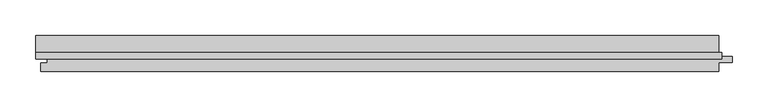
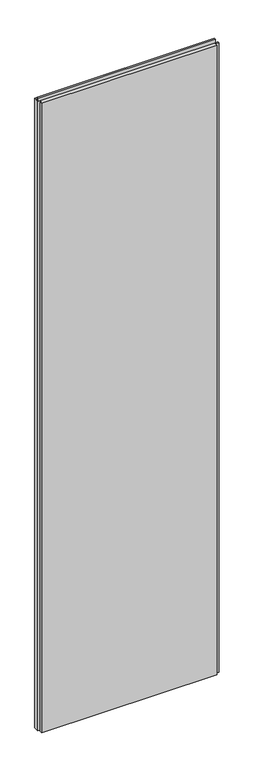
"""IFC4 building model written with IfcOpenShell, lengths in millimetres: plate geometry, Trimo_Qbiss Screen_Normal Panel-VERTICAL : HR - FB."""

from ifc_helpers import new_model, si_unit, frame, origin, place, context, project, spatial, polyline, outline, extrude, source, transform, mapped, element, save


def plate_875d32aa(model_context):
    return source(origin(), model_context, "Body", "SweptSolid", [
        extrude(outline(polyline([(-477.0, 93.9), (-477.0, 102.6), (477.0, 102.6), (477.0, 93.9), (-477.0, 93.9)])), frame((0.0, 0.0, 3590.5), z_axis=(0.0, 0.0, 1.0), x_axis=(1.0, 0.0, 0.0)), (0.0, 0.0, 1.0), 19.0),
        extrude(outline(polyline([(473.0, 97.0), (491.5, 97.0), (491.5, 89.0), (473.0, 89.0), (473.0, 76.0), (-470.0, 76.0), (-470.0, 88.0), (-461.5, 88.0), (-461.5, 98.0), (-477.0, 98.0), (-477.0, 126.0), (473.0, 126.0), (473.0, 97.0)])), frame((0.0, 0.0, 12.5), z_axis=(0.0, 0.0, 1.0), x_axis=(1.0, 0.0, 0.0)), (0.0, 0.0, 1.0), 3575.0),
    ])


if __name__ == "__main__":
    model = new_model("IFC4")
    model_context = context("Model", 3, world=origin())
    ifc_project = project(units=[si_unit("LENGTHUNIT", "METRE", prefix="MILLI")], contexts=[model_context])
    site = spatial("IfcSite", under=ifc_project)
    building = spatial("IfcBuilding", under=site)
    placement = place(None, origin())
    plate_shape = plate_875d32aa(model_context)
    element("IfcPlate", 1, ObjectType="Trimo_Qbiss Screen_Normal Panel-VERTICAL : HR - FB", at=placement, inside=building, context=model_context, shape_type="MappedRepresentation", body=[
        mapped(plate_shape, transform((0.0, 0.0, 0.0), x_axis=(1.0, 0.0, 0.0), y_axis=(0.0, 1.0, 0.0), z_axis=(0.0, 0.0, 1.0))),
    ])
    save(model, "model.ifc")
